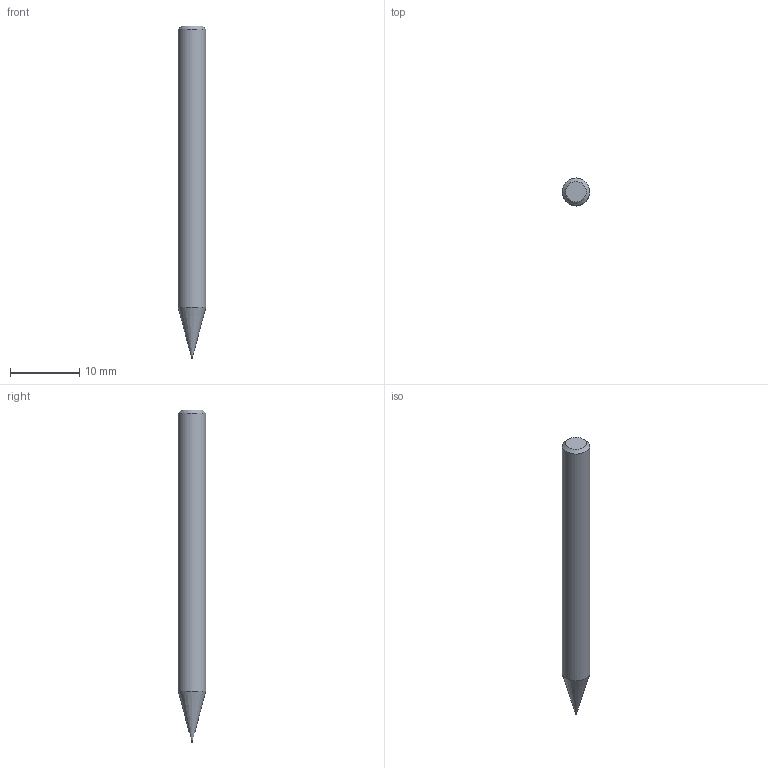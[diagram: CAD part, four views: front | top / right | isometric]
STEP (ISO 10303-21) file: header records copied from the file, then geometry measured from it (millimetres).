
FILE_DESCRIPTION((''),'2;1');
FILE_NAME('C:\Users\nsx150\AppData\Local\Temp\Mastercam 2021\LJSIDMOTM8\TEMP.step','2021-08-03T14:25:50',(''),(''),'STEP Write','Mastercam 2021 ... CNC Software, Inc.','');
FILE_SCHEMA(('AUTOMOTIVE_DESIGN'));
Length unit declared in the file: millimetre
Products named in the file (1): None
Bounding box: 4 x 4 x 48 mm (x, y, z)
Volume: 540.9 mm3; surface area: 568.3 mm2
Topology: 2 solids, 2 shells, 9 faces, 12 edges, 7 vertices
Faces by surface type: plane 4, cylinder 3, cone 2
Full cylindrical faces by diameter (mm): 0.18 x1, 0.2 x1, 4 x1
Entity records: 211 total; most frequent: DIRECTION 36, CARTESIAN_POINT 25, AXIS2_PLACEMENT_3D 18, ORIENTED_EDGE 14, EDGE_LOOP 14, STYLED_ITEM 12, ADVANCED_FACE 9, FACE_BOUND 8
